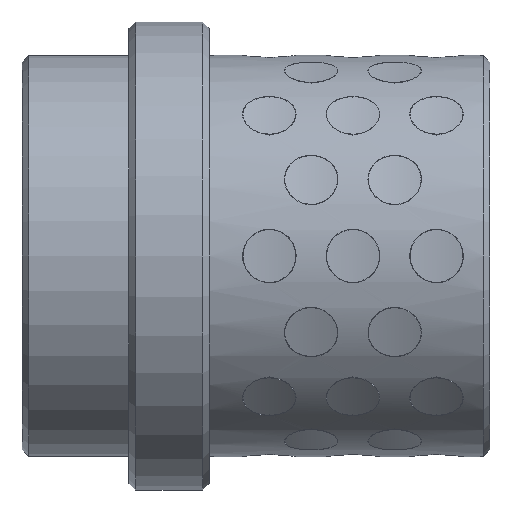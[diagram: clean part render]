
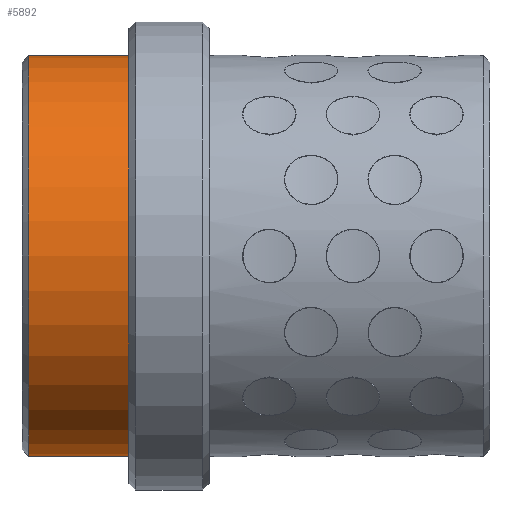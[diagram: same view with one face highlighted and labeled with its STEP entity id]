
A CAD part, front view. The second image highlights one B-rep face of the part: STEP entity #5892.
In plain terms, the highlighted cylindrical face has radius 15 mm (diameter 30 mm), a partial arc.
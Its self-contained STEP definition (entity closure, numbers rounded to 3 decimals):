
#3772=CARTESIAN_POINT('',(0.,0.,0.));
#3773=DIRECTION('',(1.,0.,0.));
#3774=DIRECTION('',(0.,0.,1.));
#3775=AXIS2_PLACEMENT_3D('',#3772,#3773,#3774);
#3792=CARTESIAN_POINT('',(-7.5,0.,0.));
#3793=DIRECTION('',(1.,0.,0.));
#3794=DIRECTION('',(0.,0.,1.));
#3795=AXIS2_PLACEMENT_3D('',#3792,#3793,#3794);
#3810=DIRECTION('',(1.,0.,0.));
#3811=VECTOR('',#3810,7.5);
#3812=CARTESIAN_POINT('',(-7.5,0.,
-15.));
#3813=LINE('',#3812,#3811);
#3814=DIRECTION('',(1.,0.,0.));
#3815=VECTOR('',#3814,7.5);
#3816=CARTESIAN_POINT('',(-7.5,0.,
15.));
#3817=LINE('',#3816,#3815);
#4102=CARTESIAN_POINT('',(0.,0.,15.));
#4103=CARTESIAN_POINT('',(0.,0.,-15.));
#4104=VERTEX_POINT('',#4102);
#4105=VERTEX_POINT('',#4103);
#4110=CARTESIAN_POINT('',(-7.5,0.,-15.));
#4111=CARTESIAN_POINT('',(-7.5,0.,15.));
#4112=VERTEX_POINT('',#4110);
#4113=VERTEX_POINT('',#4111);
#5878=CARTESIAN_POINT('',(-9.75,0.,0.));
#5879=DIRECTION('',(1.,0.,0.));
#5880=DIRECTION('',(0.,0.,1.));
#5881=AXIS2_PLACEMENT_3D('',#5878,#5879,#5880);
#5882=CYLINDRICAL_SURFACE('',#5881,15.);
#5884=ORIENTED_EDGE('',*,*,#5883,.F.);
#5886=ORIENTED_EDGE('',*,*,#5885,.T.);
#5887=ORIENTED_EDGE('',*,*,#5871,.T.);
#5889=ORIENTED_EDGE('',*,*,#5888,.F.);
#5890=EDGE_LOOP('',(#5884,#5886,#5887,#5889));
#5891=FACE_OUTER_BOUND('',#5890,.F.);
#5892=ADVANCED_FACE('',(#5891),#5882,.T.);
#3776=CIRCLE('',#3775,15.);
#3796=CIRCLE('',#3795,15.);
#5871=EDGE_CURVE('',#4104,#4105,#3776,.T.);
#5883=EDGE_CURVE('',#4113,#4112,#3796,.T.);
#5885=EDGE_CURVE('',#4113,#4104,#3817,.T.);
#5888=EDGE_CURVE('',#4112,#4105,#3813,.T.);
